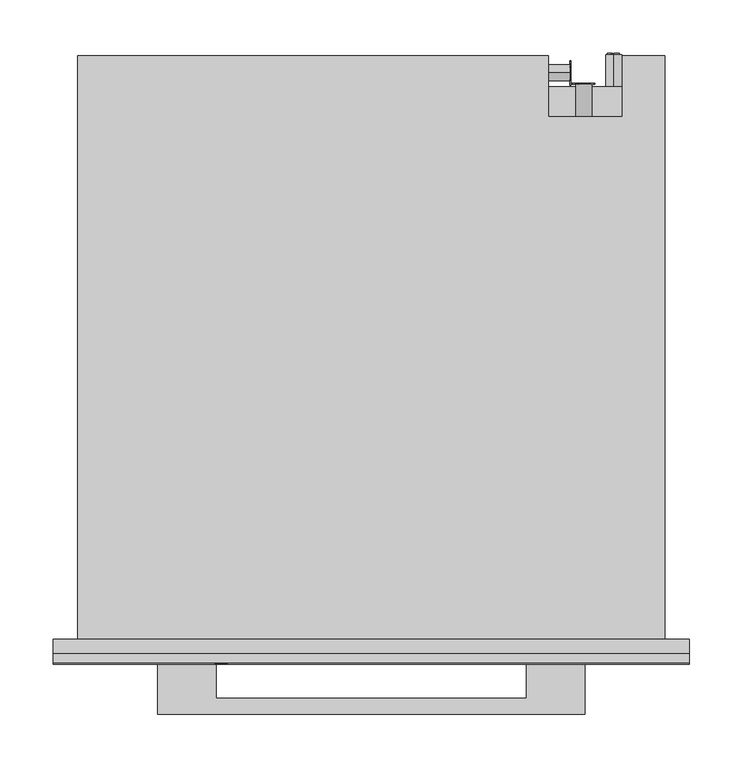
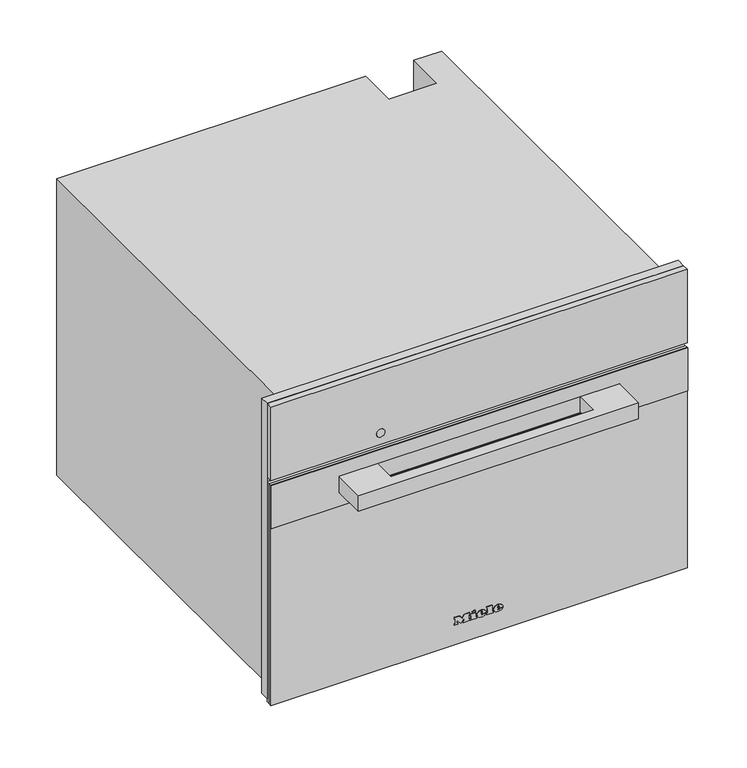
"""IFC4 building model written with IfcOpenShell, lengths in millimetres: proxy geometry, 11107210_D_DGC7845_EDST-CLST : 23784542_D_11107210_DGC7845_EDST-CLST."""

from ifc_helpers import new_model, si_unit, point, frame, frame_2d, origin, place, context, project, spatial, polyline, circle_curve, ellipse_curve, trimmed, segment, composite_curve, outline, extrude, faceted_brep, source, transform, mapped, element, save
from ifc_brep_helpers import plane_surface, cylinder_surface, revolved_surface, extruded_surface, advanced_brep


def specialty_equipment_fb1e3b41(model_context):
    return source(origin(), model_context, "Body", "SolidModel", [
        extrude(outline(polyline([(455.0, 297.5), (455.0, -297.5), (9.0, -297.5), (9.0, 297.5), (455.0, 297.5)]), holes=[polyline([(344.0, -272.5), (344.0, 272.5), (27.0, 272.5), (27.0, -272.5), (344.0, -272.5)])]), frame((0.0, -13.0, 0.0), z_axis=(0.0, 1.0, 0.0), x_axis=(0.0, 0.0, 1.0)), (0.0, 0.0, 1.0), 13.0),
        extrude(outline(polyline([(383.0, 196.9217896), (383.0, 198.4267862), (393.0435673, 201.1942402), (393.0435673, 199.9014806), (384.4295103, 197.7797951), (393.0470645, 195.3087512), (393.0470645, 193.4373937), (384.4121052, 190.9191482), (393.0472266, 188.8443938), (393.0472266, 187.5376524), (383.0, 190.2769667), (383.0, 191.6257455), (391.8347238, 194.3884733), (383.0, 196.9217896)])), frame((0.0, 519.0, 0.0), z_axis=(0.0, 1.0, 0.0), x_axis=(0.0, 0.0, 1.0)), (0.0, 0.0, 1.0), 1.0),
        extrude(outline(polyline([(393.0468463, 209.521488), (393.0468463, 208.2566067), (388.129594, 208.2566067), (393.0474898, 203.1074328), (393.0474898, 201.3597489), (388.9313111, 205.6695027), (383.0, 201.1858157), (383.0, 202.7358731), (388.0700777, 206.5685235), (386.4282746, 208.2823622), (383.0, 208.2823622), (383.0, 209.521488), (393.0468463, 209.521488)])), frame((0.0, 519.0, 0.0), z_axis=(0.0, 1.0, 0.0), x_axis=(0.0, 0.0, 1.0)), (0.0, 0.0, 1.0), 1.0),
        extrude(outline(polyline([(518.3136153, 20.0), (522.323529, 30.045631), (523.3928394, 30.045631), (527.4027531, 20.0), (526.0759254, 20.0), (524.925681, 23.1392597), (520.7882348, 23.1392597), (519.640443, 20.0), (518.3136153, 20.0)]), holes=[polyline([(521.2493136, 24.3949636), (524.4670548, 24.3949636), (523.5620651, 26.864678), (522.8581842, 28.7899271), (522.2327848, 27.0805021), (521.2493136, 24.3949636)])]), frame((186.0, 0.0, 0.0), z_axis=(1.0, 0.0, 0.0), x_axis=(0.0, 1.0, 0.0)), (0.0, 0.0, 1.0), 1.0),
        extrude(outline(polyline([(530.5420128, 20.0), (527.8025182, 30.045631), (529.0974628, 30.045631), (530.6867131, 23.4433755), (531.1772224, 21.4053092), (531.7020674, 23.207931), (533.6935352, 30.045631), (535.5599232, 30.045631), (537.0069257, 25.0890343), (538.0835937, 21.4053092), (538.5593878, 23.3845144), (540.1633533, 30.045631), (541.4582979, 30.045631), (538.7163507, 20.0), (537.3748077, 20.0), (534.9664069, 27.7500474), (534.630408, 28.8316204), (534.2527159, 27.5293182), (532.0576866, 20.0), (530.5420128, 20.0)])), frame((186.0, 0.0, 0.0), z_axis=(1.0, 0.0, 0.0), x_axis=(0.0, 1.0, 0.0)), (0.0, 0.0, 1.0), 1.0),
        advanced_brep(
        [(227.0, 547.0, 255.5), (227.0, 547.0, 240.5), (221.4098301, 547.0, 243.0), (225.5, 547.0, 243.0), (225.5, 547.0, 253.0), (224.4955303, 547.0, 253.0), (224.4955303, 547.0, 244.0), (221.0315043, 547.0, 244.0), (221.0315043, 547.0, 243.4582978), (232.0, 547.0, 243.0), (232.0, 547.0, 253.0), (227.0, 547.0, 253.0), (227.0, 547.0, 252.0), (231.0, 547.0, 252.0), (231.0, 547.0, 248.5), (228.0, 547.0, 248.5), (228.0, 547.0, 247.5), (231.0, 547.0, 247.5), (231.0, 547.0, 244.0), (227.0, 547.0, 244.0), (227.0, 547.0, 243.0), (227.0, 517.0, 240.5), (227.0, 517.0, 255.5), (232.0, 548.0, 253.0), (232.0, 548.0, 243.0), (227.0, 548.0, 243.0), (227.0, 548.0, 244.0), (231.0, 548.0, 244.0), (231.0, 548.0, 247.5), (228.0, 548.0, 247.5), (228.0, 548.0, 248.5), (231.0, 548.0, 248.5), (231.0, 548.0, 252.0), (227.0, 548.0, 252.0), (227.0, 548.0, 253.0), (225.5, 548.0, 243.0), (221.0315043, 548.0, 243.0), (221.0315043, 548.0, 244.0), (224.4955303, 548.0, 244.0), (224.4955303, 548.0, 253.0), (225.5, 548.0, 253.0), (221.0315043, 547.0, 243.0)],
        [
            (0, 1, circle_curve(frame((227.0, 547.0, 248.0), z_axis=(0.0, 1.0, 0.0), x_axis=(0.0, 0.0, 1.0)), 7.5)),
            (1, 2, circle_curve(frame((227.0, 547.0, 248.0), z_axis=(0.0, 1.0, 0.0), x_axis=(0.0, 0.0, 1.0)), 7.5)),
            (2, 3),
            (3, 4),
            (4, 5),
            (5, 6),
            (6, 7),
            (7, 8),
            (8, 0, circle_curve(frame((227.0, 547.0, 248.0), z_axis=(0.0, 1.0, 0.0), x_axis=(0.0, 0.0, 1.0)), 7.5)),
            (9, 10),
            (10, 11),
            (11, 12),
            (12, 13),
            (13, 14),
            (14, 15),
            (15, 16),
            (16, 17),
            (17, 18),
            (18, 19),
            (19, 20),
            (20, 9),
            (21, 22, circle_curve(frame((227.0, 517.0, 248.0), z_axis=(0.0, -1.0, 0.0), x_axis=(0.0, 0.0, 1.0)), 7.5)),
            (22, 21, circle_curve(frame((227.0, 517.0, 248.0), z_axis=(0.0, -1.0, 0.0), x_axis=(0.0, 0.0, 1.0)), 7.5)),
            (0, 22),
            (21, 1),
            (8, 2, circle_curve(frame((227.0, 547.0, 248.0), z_axis=(0.0, -1.0, 0.0), x_axis=(0.0, 0.0, 1.0)), 7.5)),
            (23, 24),
            (24, 25),
            (25, 26),
            (26, 27),
            (27, 28),
            (28, 29),
            (29, 30),
            (30, 31),
            (31, 32),
            (32, 33),
            (33, 34),
            (34, 23),
            (35, 36),
            (36, 37),
            (37, 38),
            (38, 39),
            (39, 40),
            (40, 35),
            (8, 41),
            (41, 2),
            (23, 10),
            (9, 24),
            (20, 25),
            (19, 26),
            (18, 27),
            (17, 28),
            (16, 29),
            (15, 30),
            (14, 31),
            (13, 32),
            (12, 33),
            (11, 34),
            (35, 3),
            (41, 36),
            (7, 37),
            (6, 38),
            (5, 39),
            (4, 40),
        ],
        [
            plane_surface(frame((227.0, 547.0, 255.5), z_axis=(0.0, 1.0, 0.0), x_axis=(1.0, 0.0, 0.0))),
            plane_surface(frame((227.0, 517.0, 255.5), z_axis=(0.0, -1.0, 0.0), x_axis=(-1.0, 0.0, 0.0))),
            cylinder_surface(frame((227.0, 547.0, 248.0), z_axis=(0.0, -1.0, 0.0), x_axis=(0.0, 0.0, 1.0)), 7.5),
            plane_surface(frame((232.0, 548.0, 253.0), z_axis=(0.0, 1.0, 0.0), x_axis=(0.0, 0.0, -1.0))),
            plane_surface(frame((232.0, 547.0, 253.0), z_axis=(0.0, -1.0, 0.0), x_axis=(0.0, 0.0, 1.0))),
            plane_surface(frame((232.0, 548.0, 253.0), z_axis=(1.0, 0.0, 0.0), x_axis=(0.0, -1.0, 0.0))),
            plane_surface(frame((232.0, 548.0, 243.0), z_axis=(0.0, 0.0, -1.0), x_axis=(0.0, -1.0, 0.0))),
            plane_surface(frame((227.0, 548.0, 243.0), z_axis=(-1.0, 0.0, 0.0), x_axis=(0.0, -1.0, 0.0))),
            plane_surface(frame((227.0, 548.0, 244.0), z_axis=(0.0, 0.0, 1.0), x_axis=(0.0, -1.0, 0.0))),
            plane_surface(frame((231.0, 548.0, 244.0), z_axis=(-1.0, 0.0, 0.0), x_axis=(0.0, -1.0, 0.0))),
            plane_surface(frame((231.0, 548.0, 247.5), z_axis=(0.0, 0.0, -1.0), x_axis=(0.0, -1.0, 0.0))),
            plane_surface(frame((228.0, 548.0, 247.5), z_axis=(-1.0, 0.0, 0.0), x_axis=(0.0, -1.0, 0.0))),
            plane_surface(frame((228.0, 548.0, 248.5), z_axis=(0.0, 0.0, 1.0), x_axis=(0.0, -1.0, 0.0))),
            plane_surface(frame((231.0, 548.0, 248.5), z_axis=(-1.0, 0.0, 0.0), x_axis=(0.0, -1.0, 0.0))),
            plane_surface(frame((231.0, 548.0, 252.0), z_axis=(0.0, 0.0, -1.0), x_axis=(0.0, -1.0, 0.0))),
            plane_surface(frame((227.0, 548.0, 252.0), z_axis=(-1.0, 0.0, 0.0), x_axis=(0.0, -1.0, 0.0))),
            plane_surface(frame((227.0, 548.0, 253.0), z_axis=(0.0, 0.0, 1.0), x_axis=(0.0, -1.0, 0.0))),
            plane_surface(frame((225.5, 548.0, 243.0), z_axis=(0.0, 0.0, -1.0), x_axis=(0.0, -1.0, 0.0))),
            plane_surface(frame((221.0315043, 548.0, 243.0), z_axis=(-1.0, 0.0, 0.0), x_axis=(0.0, -1.0, 0.0))),
            plane_surface(frame((221.0315043, 548.0, 244.0), z_axis=(0.0, 0.0, 1.0), x_axis=(0.0, -1.0, 0.0))),
            plane_surface(frame((224.4955303, 548.0, 244.0), z_axis=(-1.0, 0.0, 0.0), x_axis=(0.0, -1.0, 0.0))),
            plane_surface(frame((224.4955303, 548.0, 253.0), z_axis=(0.0, 0.0, 1.0), x_axis=(0.0, -1.0, 0.0))),
            plane_surface(frame((225.5, 548.0, 253.0), z_axis=(1.0, 0.0, 0.0), x_axis=(0.0, -1.0, 0.0))),
        ],
        [
            (0, [[1, 2, 3, 4, 5, 6, 7, 8, 9], [10, 11, 12, 13, 14, 15, 16, 17, 18, 19, 20, 21]]),
            (1, [[22, 23]]),
            (2, [[-1, 24, -22, 25]]),
            (2, [[-23, -24, -9, 26, -2, -25]]),
            (3, [[27, 28, 29, 30, 31, 32, 33, 34, 35, 36, 37, 38]]),
            (3, [[39, 40, 41, 42, 43, 44]]),
            (4, [[45, 46, -26]]),
            (5, [[-27, 47, -10, 48]]),
            (6, [[-28, -48, -21, 49]]),
            (7, [[-29, -49, -20, 50]]),
            (8, [[-30, -50, -19, 51]]),
            (9, [[-31, -51, -18, 52]]),
            (10, [[-32, -52, -17, 53]]),
            (11, [[-33, -53, -16, 54]]),
            (12, [[-34, -54, -15, 55]]),
            (13, [[-35, -55, -14, 56]]),
            (14, [[-36, -56, -13, 57]]),
            (15, [[-37, -57, -12, 58]]),
            (16, [[-38, -58, -11, -47]]),
            (17, [[-39, 59, -3, -46, 60]]),
            (18, [[-40, -60, -45, -8, 61]]),
            (19, [[-41, -61, -7, 62]]),
            (20, [[-42, -62, -6, 63]]),
            (21, [[-43, -63, -5, 64]]),
            (22, [[-44, -64, -4, -59]]),
        ],
    ),
        extrude(outline(composite_curve([segment(trimmed(circle_curve(frame_2d((388.0, 199.0)), 7.5), [point((388.0, 206.5))], [point((388.0, 191.5))], False, "CARTESIAN"), True, "CONTINUOUS"), segment(trimmed(circle_curve(frame_2d((388.0, 199.0)), 7.5), [point((388.0, 191.5))], [point((388.0, 206.5))], False, "CARTESIAN"), True, "CONTINUOUS")], self_intersect=False)), frame((0.0, 489.0, 0.0), z_axis=(0.0, 1.0, 0.0), x_axis=(0.0, 0.0, 1.0)), (0.0, 0.0, 1.0), 30.0),
        extrude(outline(composite_curve([segment(trimmed(circle_curve(frame_2d((530.0, 25.0)), 7.5), [point((530.0, 17.5))], [point((530.0, 32.5))], False, "CARTESIAN"), True, "CONTINUOUS"), segment(trimmed(circle_curve(frame_2d((530.0, 25.0)), 7.5), [point((530.0, 32.5))], [point((530.0, 17.5))], False, "CARTESIAN"), True, "CONTINUOUS")], self_intersect=False)), frame((166.0, 0.0, 0.0), z_axis=(1.0, 0.0, 0.0), x_axis=(0.0, 1.0, 0.0)), (0.0, 0.0, 1.0), 20.0),
        faceted_brep([(-275.0, 546.0, 0.0), (-275.0, 546.0, 448.0), (166.0, 546.0, 448.0), (166.0, 546.0, 0.0), (235.0, 546.0, 448.0), (275.0, 546.0, 448.0), (275.0, 546.0, 338.0), (235.0, 546.0, 338.0), (275.0, 0.0, 448.0), (-275.0, 0.0, 448.0), (-275.0, 0.0, 0.0), (275.0, 0.0, 0.0), (-272.5, 0.0, 344.0), (272.5, 0.0, 344.0), (272.5, 0.0, 27.0), (-272.5, 0.0, 27.0), (235.0, 489.0, 448.0), (166.0, 489.0, 448.0), (166.0, 517.0, 0.0), (275.0, 517.0, 0.0), (275.0, 517.0, 338.0), (272.5, 17.0, 344.0), (-272.5, 17.0, 344.0), (-272.5, 17.0, 27.0), (272.5, 17.0, 27.0), (231.0, 17.0, 307.0), (231.0, 17.0, 65.0), (-231.0, 17.0, 65.0), (-231.0, 17.0, 307.0), (231.0, 411.0, 307.0), (-231.0, 411.0, 307.0), (-231.0, 411.0, 65.0), (231.0, 411.0, 65.0), (235.0, 489.0, 337.0), (166.0, 489.0, 337.0), (166.0, 517.0, 337.0), (235.0, 517.0, 337.0), (235.0, 517.0, 338.0)], [[[0, 1, 2, 3]], [[4, 5, 6, 7]], [[8, 9, 10, 11], [12, 13, 14, 15]], [[9, 8, 5, 4, 16, 17, 2, 1]], [[1, 0, 10, 9]], [[11, 10, 0, 3, 18, 19]], [[8, 11, 19, 20, 6, 5]], [[21, 22, 23, 24], [25, 26, 27, 28]], [[22, 21, 13, 12]], [[23, 22, 12, 15]], [[24, 23, 15, 14]], [[21, 24, 14, 13]], [[29, 30, 31, 32]], [[29, 32, 26, 25]], [[32, 31, 27, 26]], [[31, 30, 28, 27]], [[30, 29, 25, 28]], [[16, 33, 34, 17]], [[17, 34, 35, 18, 3, 2]], [[34, 33, 36, 35]], [[33, 16, 4, 7, 37, 36]], [[37, 20, 19, 18, 35, 36]], [[20, 37, 7, 6]]]),
        advanced_brep(
        [(26.2998, -23.0, 36.7018), (26.2998, -23.0, 37.8532), (33.9264, -23.0, 37.8532), (20.6568, -23.0, 37.8532), (23.7918, -23.0, 34.0), (33.7326, -23.0, 36.7018), (30.2898, -23.0, 36.7018), (27.5766, -23.0, 35.425), (26.2998, -23.0, 39.3124), (26.2998, -23.0, 40.555), (28.2492, -23.0, 40.555), (28.2492, -23.0, 39.3124), (26.2998, -22.0, 36.7018), (27.5766, -22.0, 35.425), (30.2898, -22.0, 36.7018), (33.7326, -22.0, 36.7018), (23.7918, -22.0, 34.0), (20.6568, -22.0, 37.8532), (33.9264, -22.0, 37.8532), (26.2998, -22.0, 37.8532), (26.2998, -22.0, 39.3124), (28.2492, -22.0, 39.3124), (28.2492, -22.0, 40.555), (26.2998, -22.0, 40.555)],
        [
            (0, 1),
            (1, 2),
            (2, 3, ellipse_curve(frame((27.2916, -23.0, 37.8532), z_axis=(0.0, -1.0, 0.0), x_axis=(-1.0, 0.0, 0.0)), 6.6348, 5.4834)),
            (3, 4, circle_curve(frame((25.0686622, -23.0, 38.2408), z_axis=(0.0, -1.0, 0.0), x_axis=(0.0, 0.0, -1.0)), 4.4288556)),
            (4, 5, circle_curve(frame((27.1587808, -23.0, 41.2504), z_axis=(0.0, -1.0, 0.0), x_axis=(0.0, 0.0, -1.0)), 7.9940516)),
            (5, 6),
            (6, 7, circle_curve(frame((28.1338588, -23.0, 37.762), z_axis=(0.0, 1.0, 0.0), x_axis=(0.0, 0.0, -1.0)), 2.4025208)),
            (7, 0, circle_curve(frame((27.5766, -23.0, 36.7018), z_axis=(0.0, 1.0, 0.0), x_axis=(0.0, 0.0, -1.0)), 1.2768)),
            (8, 9),
            (9, 10, circle_curve(frame((27.2745, -23.0, 40.555), z_axis=(0.0, 1.0, 0.0), x_axis=(0.0, 0.0, -1.0)), 0.9747)),
            (10, 11),
            (11, 8),
            (12, 13, circle_curve(frame((27.5766, -22.0, 36.7018), z_axis=(0.0, -1.0, 0.0), x_axis=(0.0, 0.0, -1.0)), 1.2768)),
            (13, 14, circle_curve(frame((28.1338588, -22.0, 37.762), z_axis=(0.0, -1.0, 0.0), x_axis=(0.0, 0.0, -1.0)), 2.4025208)),
            (14, 15),
            (15, 16, circle_curve(frame((27.1587808, -22.0, 41.2504), z_axis=(0.0, 1.0, 0.0), x_axis=(0.0, 0.0, -1.0)), 7.9940516)),
            (16, 17, circle_curve(frame((25.0686622, -22.0, 38.2408), z_axis=(0.0, 1.0, 0.0), x_axis=(0.0, 0.0, -1.0)), 4.4288556)),
            (17, 18, ellipse_curve(frame((27.2916, -22.0, 37.8532), z_axis=(0.0, 1.0, 0.0), x_axis=(-1.0, 0.0, 0.0)), 6.6348, 5.4834)),
            (18, 19),
            (19, 12),
            (20, 21),
            (21, 22),
            (22, 23, circle_curve(frame((27.2745, -22.0, 40.555), z_axis=(0.0, -1.0, 0.0), x_axis=(0.0, 0.0, -1.0)), 0.9747)),
            (23, 20),
            (0, 12),
            (19, 1),
            (18, 2),
            (5, 15),
            (14, 6),
            (17, 3),
            (13, 7),
            (16, 4),
            (8, 20),
            (23, 9),
            (22, 10),
            (21, 11),
        ],
        [
            plane_surface(frame((26.2998, -23.0, 37.8532), z_axis=(0.0, -1.0, 0.0), x_axis=(0.0, 0.0, 1.0))),
            plane_surface(frame((26.2998, -22.0, 37.8532), z_axis=(0.0, 1.0, 0.0), x_axis=(0.0, 0.0, -1.0))),
            plane_surface(frame((26.2998, -23.0, 36.7018), z_axis=(1.0, 0.0, 0.0), x_axis=(0.0, 1.0, 0.0))),
            plane_surface(frame((26.2998, -23.0, 37.8532), z_axis=(0.0, 0.0, -1.0), x_axis=(0.0, 1.0, 0.0))),
            plane_surface(frame((33.7326, -23.0, 36.7018), z_axis=(0.0, 0.0, 1.0), x_axis=(0.0, 1.0, 0.0))),
            extruded_surface(trimmed(ellipse_curve(frame((27.2916, -21.0, 37.8532), z_axis=(0.0, -1.0, 0.0), x_axis=(-1.0, 0.0, 0.0)), 6.6348, 5.4834), [point((33.9264, -21.0, 37.8532))], [point((20.6568, -21.0, 37.8532))], True, "CARTESIAN"), (0.0, -1.0, 0.0), 1.0),
            revolved_surface(polyline([(28.1338588, -22.0, 35.3594792), (28.1338588, -23.0, 35.3594792)]), (28.1338588, -22.0, 37.762), (0.0, 1.0, 0.0)),
            revolved_surface(polyline([(27.5766, -22.0, 35.425), (27.5766, -23.0, 35.425)]), (27.5766, -22.0, 36.7018), (0.0, 1.0, 0.0)),
            cylinder_surface(frame((25.0686622, -22.0, 38.2408), z_axis=(0.0, -1.0, 0.0), x_axis=(0.0, 0.0, -1.0)), 4.4288556),
            cylinder_surface(frame((27.1587808, -22.0, 41.2504), z_axis=(0.0, -1.0, 0.0), x_axis=(0.0, 0.0, -1.0)), 7.9940516),
            plane_surface(frame((26.2998, -23.0, 39.3124), z_axis=(1.0, 0.0, 0.0), x_axis=(0.0, 1.0, 0.0))),
            revolved_surface(polyline([(27.2745, -22.0, 39.5803), (27.2745, -23.0, 39.5803)]), (27.2745, -22.0, 40.555), (0.0, 1.0, 0.0)),
            plane_surface(frame((28.2492, -23.0, 40.555), z_axis=(-1.0, 0.0, 0.0), x_axis=(0.0, 1.0, 0.0))),
            plane_surface(frame((28.2492, -23.0, 39.3124), z_axis=(0.0, 0.0, 1.0), x_axis=(0.0, 1.0, 0.0))),
        ],
        [
            (0, [[1, 2, 3, 4, 5, 6, 7, 8], [9, 10, 11, 12]]),
            (1, [[13, 14, 15, 16, 17, 18, 19, 20], [21, 22, 23, 24]]),
            (2, [[-1, 25, -20, 26]]),
            (3, [[-2, -26, -19, 27]]),
            (4, [[-6, 28, -15, 29]]),
            (5, [[-3, -27, -18, 30]]),
            (6, [[-7, -29, -14, 31]]),
            (7, [[-8, -31, -13, -25]]),
            (8, [[-4, -30, -17, 32]]),
            (9, [[-5, -32, -16, -28]]),
            (10, [[-9, 33, -24, 34]]),
            (11, [[-10, -34, -23, 35]]),
            (12, [[-11, -35, -22, 36]]),
            (13, [[-12, -36, -21, -33]]),
        ],
    ),
        advanced_brep(
        [(2.508, -23.0, 36.7018), (2.508, -23.0, 37.8532), (10.1346, -23.0, 37.8532), (-3.135, -23.0, 37.8532), (0.0, -23.0, 34.0), (9.9408, -23.0, 36.7018), (6.498, -23.0, 36.7018), (3.7848, -23.0, 35.425), (2.508, -23.0, 39.3124), (2.508, -23.0, 40.555), (4.4574, -23.0, 40.555), (4.4574, -23.0, 39.3124), (2.508, -22.0, 36.7018), (3.7848, -22.0, 35.425), (6.498, -22.0, 36.7018), (9.9408, -22.0, 36.7018), (0.0, -22.0, 34.0), (-3.135, -22.0, 37.8532), (10.1346, -22.0, 37.8532), (2.508, -22.0, 37.8532), (2.508, -22.0, 39.3124), (4.4574, -22.0, 39.3124), (4.4574, -22.0, 40.555), (2.508, -22.0, 40.555)],
        [
            (0, 1),
            (1, 2),
            (2, 3, ellipse_curve(frame((3.4998, -23.0, 37.8532), z_axis=(0.0, -1.0, 0.0), x_axis=(-1.0, 0.0, 0.0)), 6.6348, 5.4834)),
            (3, 4, circle_curve(frame((1.2768622, -23.0, 38.2408), z_axis=(0.0, -1.0, 0.0), x_axis=(0.0, 0.0, -1.0)), 4.4288556)),
            (4, 5, circle_curve(frame((3.3669808, -23.0, 41.2504), z_axis=(0.0, -1.0, 0.0), x_axis=(0.0, 0.0, -1.0)), 7.9940516)),
            (5, 6),
            (6, 7, circle_curve(frame((4.3420588, -23.0, 37.762), z_axis=(0.0, 1.0, 0.0), x_axis=(0.0, 0.0, -1.0)), 2.4025208)),
            (7, 0, circle_curve(frame((3.7848, -23.0, 36.7018), z_axis=(0.0, 1.0, 0.0), x_axis=(0.0, 0.0, -1.0)), 1.2768)),
            (8, 9),
            (9, 10, circle_curve(frame((3.4827, -23.0, 40.555), z_axis=(0.0, 1.0, 0.0), x_axis=(0.0, 0.0, -1.0)), 0.9747)),
            (10, 11),
            (11, 8),
            (12, 13, circle_curve(frame((3.7848, -22.0, 36.7018), z_axis=(0.0, -1.0, 0.0), x_axis=(0.0, 0.0, -1.0)), 1.2768)),
            (13, 14, circle_curve(frame((4.3420588, -22.0, 37.762), z_axis=(0.0, -1.0, 0.0), x_axis=(0.0, 0.0, -1.0)), 2.4025208)),
            (14, 15),
            (15, 16, circle_curve(frame((3.3669808, -22.0, 41.2504), z_axis=(0.0, 1.0, 0.0), x_axis=(0.0, 0.0, -1.0)), 7.9940516)),
            (16, 17, circle_curve(frame((1.2768622, -22.0, 38.2408), z_axis=(0.0, 1.0, 0.0), x_axis=(0.0, 0.0, -1.0)), 4.4288556)),
            (17, 18, ellipse_curve(frame((3.4998, -22.0, 37.8532), z_axis=(0.0, 1.0, 0.0), x_axis=(-1.0, 0.0, 0.0)), 6.6348, 5.4834)),
            (18, 19),
            (19, 12),
            (20, 21),
            (21, 22),
            (22, 23, circle_curve(frame((3.4827, -22.0, 40.555), z_axis=(0.0, -1.0, 0.0), x_axis=(0.0, 0.0, -1.0)), 0.9747)),
            (23, 20),
            (0, 12),
            (19, 1),
            (18, 2),
            (5, 15),
            (14, 6),
            (17, 3),
            (13, 7),
            (16, 4),
            (8, 20),
            (23, 9),
            (22, 10),
            (21, 11),
        ],
        [
            plane_surface(frame((2.508, -23.0, 37.8532), z_axis=(0.0, -1.0, 0.0), x_axis=(0.0, 0.0, 1.0))),
            plane_surface(frame((2.508, -22.0, 37.8532), z_axis=(0.0, 1.0, 0.0), x_axis=(0.0, 0.0, -1.0))),
            plane_surface(frame((2.508, -23.0, 36.7018), z_axis=(1.0, 0.0, 0.0), x_axis=(0.0, 1.0, 0.0))),
            plane_surface(frame((2.508, -23.0, 37.8532), z_axis=(0.0, 0.0, -1.0), x_axis=(0.0, 1.0, 0.0))),
            plane_surface(frame((9.9408, -23.0, 36.7018), z_axis=(0.0, 0.0, 1.0), x_axis=(0.0, 1.0, 0.0))),
            extruded_surface(trimmed(ellipse_curve(frame((3.4998, -21.0, 37.8532), z_axis=(0.0, -1.0, 0.0), x_axis=(-1.0, 0.0, 0.0)), 6.6348, 5.4834), [point((10.1346, -21.0, 37.8532))], [point((-3.135, -21.0, 37.8532))], True, "CARTESIAN"), (0.0, -1.0, 0.0), 1.0),
            revolved_surface(polyline([(4.3420588, -22.0, 35.3594792), (4.3420588, -23.0, 35.3594792)]), (4.3420588, -22.0, 37.762), (0.0, 1.0, 0.0)),
            revolved_surface(polyline([(3.7848, -22.0, 35.425), (3.7848, -23.0, 35.425)]), (3.7848, -22.0, 36.7018), (0.0, 1.0, 0.0)),
            cylinder_surface(frame((1.2768622, -22.0, 38.2408), z_axis=(0.0, -1.0, 0.0), x_axis=(0.0, 0.0, -1.0)), 4.4288556),
            cylinder_surface(frame((3.3669808, -22.0, 41.2504), z_axis=(0.0, -1.0, 0.0), x_axis=(0.0, 0.0, -1.0)), 7.9940516),
            plane_surface(frame((2.508, -23.0, 39.3124), z_axis=(1.0, 0.0, 0.0), x_axis=(0.0, 1.0, 0.0))),
            revolved_surface(polyline([(3.4827, -22.0, 39.5803), (3.4827, -23.0, 39.5803)]), (3.4827, -22.0, 40.555), (0.0, 1.0, 0.0)),
            plane_surface(frame((4.4574, -23.0, 40.555), z_axis=(-1.0, 0.0, 0.0), x_axis=(0.0, 1.0, 0.0))),
            plane_surface(frame((4.4574, -23.0, 39.3124), z_axis=(0.0, 0.0, 1.0), x_axis=(0.0, 1.0, 0.0))),
        ],
        [
            (0, [[1, 2, 3, 4, 5, 6, 7, 8], [9, 10, 11, 12]]),
            (1, [[13, 14, 15, 16, 17, 18, 19, 20], [21, 22, 23, 24]]),
            (2, [[-1, 25, -20, 26]]),
            (3, [[-2, -26, -19, 27]]),
            (4, [[-6, 28, -15, 29]]),
            (5, [[-3, -27, -18, 30]]),
            (6, [[-7, -29, -14, 31]]),
            (7, [[-8, -31, -13, -25]]),
            (8, [[-4, -30, -17, 32]]),
            (9, [[-5, -32, -16, -28]]),
            (10, [[-9, 33, -24, 34]]),
            (11, [[-10, -34, -23, 35]]),
            (12, [[-11, -35, -22, 36]]),
            (13, [[-12, -36, -21, -33]]),
        ],
    ),
        extrude(outline(polyline([(44.7274, -9.9522), (42.8806, -9.0858), (44.6818, -5.2212), (46.5286, -6.0762), (44.7274, -9.9522)])), frame((0.0, -23.0, 0.0), z_axis=(0.0, 1.0, 0.0), x_axis=(0.0, 0.0, 1.0)), (0.0, 0.0, 1.0), 1.0),
        extrude(outline(polyline([(42.6298, -12.768), (40.5892, -12.768), (40.5892, -11.4114), (35.9152, -11.4114), (35.9152, -12.768), (34.0, -12.768), (34.0, -3.7734), (35.9152, -3.7734), (35.9152, -5.0958), (42.6298, -5.0958), (42.6298, -12.768)])), frame((0.0, -23.0, 0.0), z_axis=(0.0, 1.0, 0.0), x_axis=(0.0, 0.0, 1.0)), (0.0, 0.0, 1.0), 1.0),
        extrude(outline(polyline([(43.5418, 10.773), (43.5418, 12.141), (35.9152, 12.141), (35.9152, 10.773), (34.0, 10.773), (34.0, 20.0184), (35.9152, 20.0184), (35.9152, 18.6162), (45.4, 18.6162), (45.4, 10.773), (43.5418, 10.773)])), frame((0.0, -23.0, 0.0), z_axis=(0.0, 1.0, 0.0), x_axis=(0.0, 0.0, 1.0)), (0.0, 0.0, 1.0), 1.0),
        extrude(outline(polyline([(43.5418, -35.4882), (43.5418, -34.1088), (35.9152, -34.1088), (35.9152, -35.4882), (34.0, -35.4882), (34.0, -30.4722), (35.9152, -30.4722), (35.9152, -31.8402), (40.7429247, -31.8402), (34.0, -26.7444), (40.9402223, -21.6258), (35.9152, -21.6258), (35.9152, -23.028), (34.0, -23.028), (34.0, -13.9308), (35.9152, -13.9308), (35.9152, -15.3786), (43.5418, -15.3786), (43.5418, -13.9308), (45.4, -13.9308), (45.4, -20.8734), (41.125, -24.2022), (45.4, -27.5424), (45.4, -35.4882), (43.5418, -35.4882)])), frame((0.0, -23.0, 0.0), z_axis=(0.0, 1.0, 0.0), x_axis=(0.0, 0.0, 1.0)), (0.0, 0.0, 1.0), 1.0),
        extrude(outline(polyline([(297.5, -22.0), (-297.5, -22.0), (-297.5, -13.0), (297.5, -13.0), (297.5, -22.0)])), frame((0.0, 0.0, 344.0), z_axis=(0.0, 0.0, 1.0), x_axis=(1.0, 0.0, 0.0)), (0.0, 0.0, 1.0), 111.0),
        extrude(outline(composite_curve([segment(trimmed(circle_curve(frame_2d((361.0, -140.5745637)), 6.0), [point((361.0, -146.5745637))], [point((361.0, -134.5745637))], False, "CARTESIAN"), True, "CONTINUOUS"), segment(trimmed(circle_curve(frame_2d((361.0, -140.5745637)), 6.0), [point((361.0, -134.5745637))], [point((361.0, -146.5745637))], False, "CARTESIAN"), True, "CONTINUOUS")], self_intersect=False)), frame((0.0, -22.5, 0.0), z_axis=(0.0, 1.0, 0.0), x_axis=(0.0, 0.0, 1.0)), (0.0, 0.0, 1.0), 1.0),
        extrude(outline(polyline([(337.0, 297.5), (337.0, -297.5), (272.0, -297.5), (272.0, 297.5), (337.0, 297.5)]), holes=[polyline([(317.0, -200.5), (317.0, 200.5), (292.0, 200.5), (292.0, -200.5), (317.0, -200.5)])]), frame((0.0, -23.3, 0.0), z_axis=(0.0, 1.0, 0.0), x_axis=(0.0, 0.0, 1.0)), (0.0, 0.0, 1.0), 1.3),
        extrude(outline(polyline([(-200.0, -70.3), (-200.0, -22.0), (-145.0, -22.0), (-145.0, -55.3), (145.0, -55.3), (145.0, -22.0), (200.0, -22.0), (200.0, -70.3), (-200.0, -70.3)])), frame((0.0, 0.0, 292.5), z_axis=(0.0, 0.0, 1.0), x_axis=(1.0, 0.0, 0.0)), (0.0, 0.0, 1.0), 24.0),
        extrude(outline(polyline([(-297.5, -18.0), (297.5, -18.0), (297.5, -22.0), (-297.5, -22.0), (-297.5, -18.0)])), frame((0.0, 0.0, 4.0), z_axis=(0.0, 0.0, 1.0), x_axis=(1.0, 0.0, 0.0)), (0.0, 0.0, 1.0), 333.0),
        extrude(outline(polyline([(297.5, -18.0), (-297.5, -18.0), (-297.5, -13.0), (297.5, -13.0), (297.5, -18.0)])), frame((0.0, 0.0, 4.0), z_axis=(0.0, 0.0, 1.0), x_axis=(1.0, 0.0, 0.0)), (0.0, 0.0, 1.0), 333.0),
    ])


if __name__ == "__main__":
    model = new_model("IFC4")
    model_context = context("Model", 3, world=origin())
    ifc_project = project(units=[si_unit("LENGTHUNIT", "METRE", prefix="MILLI")], contexts=[model_context])
    site = spatial("IfcSite", under=ifc_project)
    building = spatial("IfcBuilding", under=site)
    placement = place(None, origin())
    specialty_equipment_shape = specialty_equipment_fb1e3b41(model_context)
    element("IfcBuildingElementProxy", 1, Name="11107210_D_DGC7845_EDST-CLST : 23784542_D_11107210_DGC7845_EDST-CLST", ObjectType="11107210_D_DGC7845_EDST-CLST : 23784542_D_11107210_DGC7845_EDST-CLST", at=placement, inside=building, context=model_context, shape_type="MappedRepresentation", body=[
        mapped(specialty_equipment_shape, transform((0.0, 0.0, 0.0), x_axis=(1.0, 0.0, 0.0), y_axis=(0.0, 1.0, 0.0), z_axis=(0.0, 0.0, 1.0))),
    ])
    save(model, "model.ifc")
